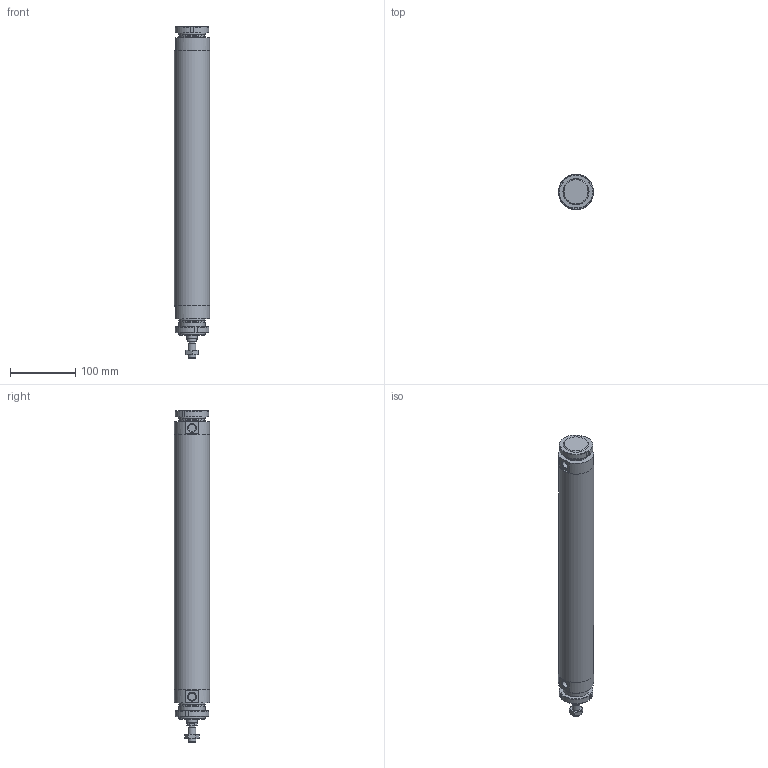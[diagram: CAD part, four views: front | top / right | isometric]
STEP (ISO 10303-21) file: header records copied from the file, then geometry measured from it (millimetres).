
FILE_DESCRIPTION(/* description */ (''),/* implementation_level */ '2;1');
FILE_NAME(/* name */ 'I:\Area Tecnica\Documenti\A-Manieri\_Inventor\12X\12X#C_###_####_#_#\12XAC_050_0350_#_#.stp',/* time_stamp */ '2015-04-28T15:20:13+02:00',/* author */ ('maniean1'),/* organization */ ('Pneumax S.p.A.'),/* preprocessor_version */ 'ST-DEVELOPER v15.2',/* originating_system */ 'Autodesk Inventor 2014',/* authorisation */ '');
FILE_SCHEMA (('AUTOMOTIVE_DESIGN { 1 0 10303 214 3 1 1 }'));
Length unit declared in the file: millimetre
Products named in the file (7): C1250_619-0350; 12X50_604; S12X50_0350; 12X_50_11; 12X50_620; G12X_050_05; 12XAC_050_0350_#_#
Bounding box: 54 x 54 x 510 mm (x, y, z)
Volume: 446147.5 mm3; surface area: 193653.6 mm2
Topology: 7 solids, 7 shells, 106 faces, 240 edges, 154 vertices
Faces by surface type: plane 52, cylinder 27, cone 27
Full cylindrical faces by diameter (mm): 10.2 x1, 11.4 x2, 12 x2, 14 x1, 15.6 x1, 16 x1, 38.2 x2, 40 x6, 50 x2, 54 x3
Entity records: 2243 total; most frequent: CARTESIAN_POINT 413, DIRECTION 382, ORIENTED_EDGE 292, AXIS2_PLACEMENT_3D 165, EDGE_CURVE 146, EDGE_LOOP 132, VERTEX_POINT 112, ADVANCED_FACE 85
